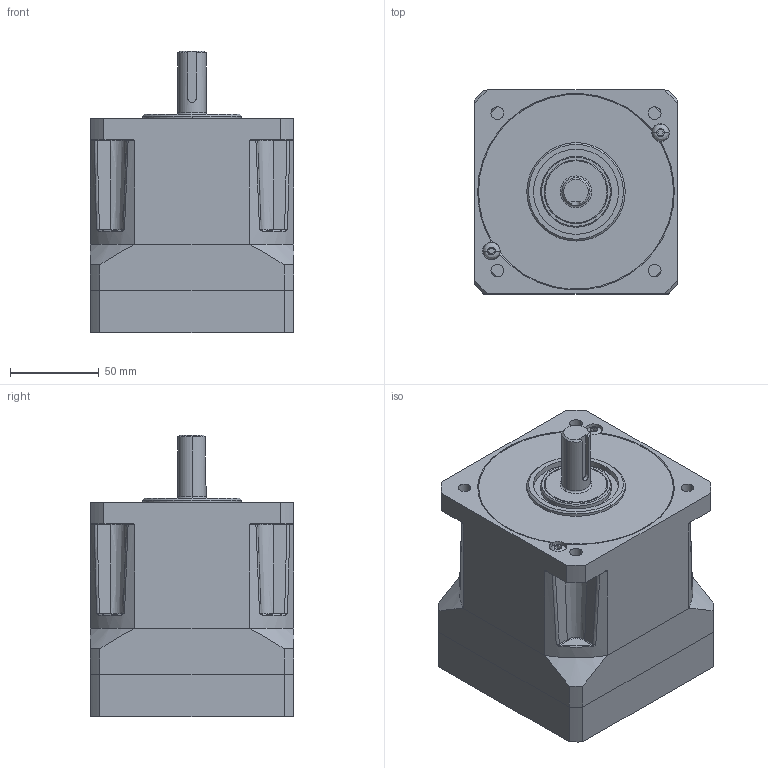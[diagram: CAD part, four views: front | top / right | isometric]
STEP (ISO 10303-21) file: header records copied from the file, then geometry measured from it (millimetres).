
FILE_DESCRIPTION((''),'2;1');
FILE_NAME('PX42-010-000-X2_SW0001','2008-11-20T',('aza7363'),(''),'PRO/ENGINEER BY PARAMETRIC TECHNOLOGY CORPORATION, 2006300','PRO/ENGINEER BY PARAMETRIC TECHNOLOGY CORPORATION, 2006300','');
FILE_SCHEMA(('CONFIG_CONTROL_DESIGN'));
Length unit declared in the file: millimetre
Products named in the file (1): PX42-010-000-X2_SW0001
Bounding box: 115 x 115 x 159.1 mm (x, y, z)
Surface area: 126326.8 mm2 (no closed solid volume)
Topology: 0 solids, 23 shells, 344 faces, 936 edges, 620 vertices
Faces by surface type: plane 144, cylinder 113, bspline 48, cone 25, torus 14
Entity records: 13223 total; most frequent: CARTESIAN_POINT 4658, DIRECTION 1782, ORIENTED_EDGE 1676, EDGE_CURVE 936, AXIS2_PLACEMENT_3D 671, VERTEX_POINT 620, VECTOR 440, LINE 440
